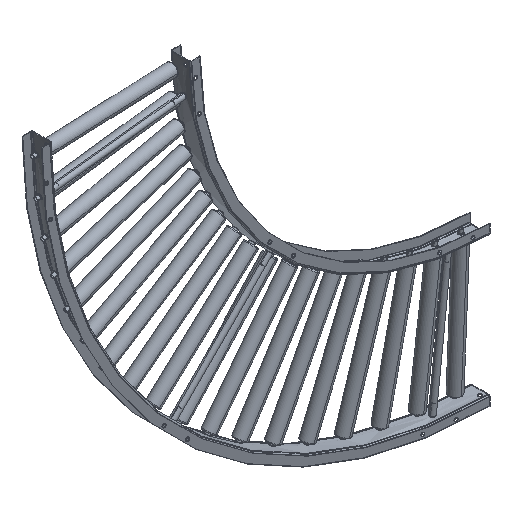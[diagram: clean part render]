
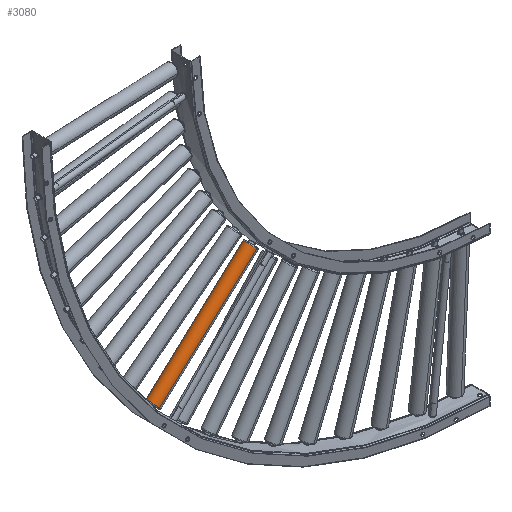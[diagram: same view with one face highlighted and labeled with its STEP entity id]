
A CAD part, isometric view. The second image highlights one B-rep face of the part: STEP entity #3080.
In plain terms, the highlighted cylindrical face has radius 19.05 mm (diameter 38.1 mm), a partial arc.
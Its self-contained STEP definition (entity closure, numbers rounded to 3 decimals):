
#1076 = EDGE_LOOP ( 'NONE', ( #8320, #8399, #8373, #8352 ) ) ;
#1853 = LINE ( 'NONE', #9636, #1860 ) ;
#1859 = LINE ( 'NONE', #9640, #1862 ) ;
#1860 = VECTOR ( 'NONE', #9632, 1000. ) ;
#1862 = VECTOR ( 'NONE', #9641, 1000. ) ;
#1875 = CIRCLE ( 'NONE', #14104, 19.05 ) ;
#2522 = CYLINDRICAL_SURFACE ( 'NONE', #3815, 19.05 ) ;
#2523 = FACE_OUTER_BOUND ( 'NONE', #1076, .T. ) ;
#2798 = CIRCLE ( 'NONE', #14052, 19.05 ) ;
#2978 = VERTEX_POINT ( 'NONE', #5394 ) ;
#2979 = VERTEX_POINT ( 'NONE', #5396 ) ;
#2982 = VERTEX_POINT ( 'NONE', #5402 ) ;
#2989 = VERTEX_POINT ( 'NONE', #5414 ) ;
#3080 = ADVANCED_FACE ( 'NONE', ( #2523 ), #2522, .T. ) ;
#3815 = AXIS2_PLACEMENT_3D ( 'NONE', #9372, #9373, #9371 ) ;
#5394 = CARTESIAN_POINT ( 'NONE',  ( 3., 0., -19.05 ) ) ;
#5396 = CARTESIAN_POINT ( 'NONE',  ( 3., 0., 19.05 ) ) ;
#5402 = CARTESIAN_POINT ( 'NONE',  ( 399., 0., -19.05 ) ) ;
#5414 = CARTESIAN_POINT ( 'NONE',  ( 399., 0., 19.05 ) ) ;
#8320 = ORIENTED_EDGE ( 'NONE', *, *, #11697, .F. ) ;
#8352 = ORIENTED_EDGE ( 'NONE', *, *, #11595, .T. ) ;
#8373 = ORIENTED_EDGE ( 'NONE', *, *, #11698, .T. ) ;
#8399 = ORIENTED_EDGE ( 'NONE', *, *, #11711, .T. ) ;
#9371 = DIRECTION ( 'NONE',  ( 0., 0., 1. ) ) ;
#9372 = CARTESIAN_POINT ( 'NONE',  ( 402., 0., 0. ) ) ;
#9373 = DIRECTION ( 'NONE',  ( -1., 0., 0. ) ) ;
#9632 = DIRECTION ( 'NONE',  ( -1., 0., 0. ) ) ;
#9636 = CARTESIAN_POINT ( 'NONE',  ( 402., 0., -19.05 ) ) ;
#9640 = CARTESIAN_POINT ( 'NONE',  ( 402., 0., 19.05 ) ) ;
#9641 = DIRECTION ( 'NONE',  ( -1., 0., 0. ) ) ;
#9697 = CARTESIAN_POINT ( 'NONE',  ( 399., 0., 0. ) ) ;
#9698 = DIRECTION ( 'NONE',  ( -1., 0., 0. ) ) ;
#9699 = DIRECTION ( 'NONE',  ( 0., 0., -1. ) ) ;
#11039 = CARTESIAN_POINT ( 'NONE',  ( 3., 0., 0. ) ) ;
#11040 = DIRECTION ( 'NONE',  ( 1., 0., 0. ) ) ;
#11041 = DIRECTION ( 'NONE',  ( 0., 0., -1. ) ) ;
#11595 = EDGE_CURVE ( 'NONE', #2979, #2978, #2798, .T. ) ;
#11697 = EDGE_CURVE ( 'NONE', #2982, #2978, #1853, .T. ) ;
#11698 = EDGE_CURVE ( 'NONE', #2989, #2979, #1859, .T. ) ;
#11711 = EDGE_CURVE ( 'NONE', #2982, #2989, #1875, .T. ) ;
#14052 = AXIS2_PLACEMENT_3D ( 'NONE', #11039, #11040, #11041 ) ;
#14104 = AXIS2_PLACEMENT_3D ( 'NONE', #9697, #9698, #9699 ) ;
